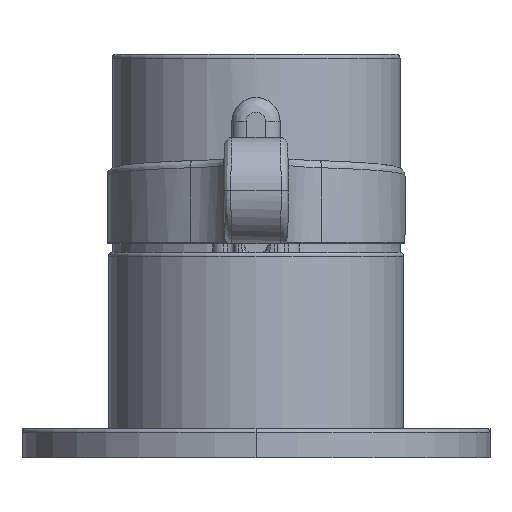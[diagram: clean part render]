
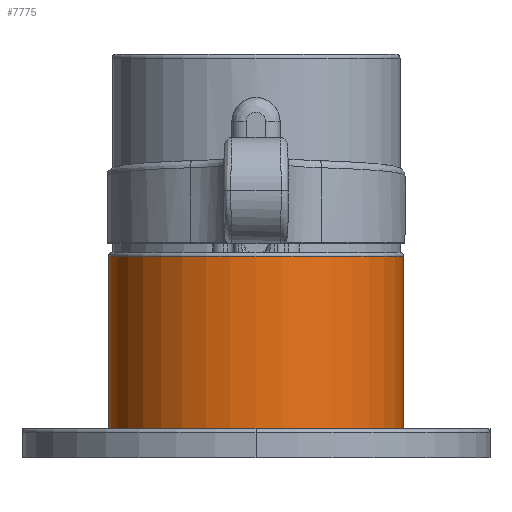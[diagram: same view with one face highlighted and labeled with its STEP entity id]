
A CAD part, front view. The second image highlights one B-rep face of the part: STEP entity #7775.
In plain terms, the highlighted cylindrical face has radius 20.5 mm (diameter 41 mm), a partial arc.
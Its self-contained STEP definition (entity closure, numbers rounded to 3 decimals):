
#1554=CARTESIAN_POINT('',(0.,0.,4.));
#1555=DIRECTION('',(0.,0.,-1.));
#1556=DIRECTION('',(1.,0.,0.));
#1557=AXIS2_PLACEMENT_3D('',#1554,#1555,#1556);
#1559=CARTESIAN_POINT('',(0.,0.,28.));
#1560=DIRECTION('',(0.,0.,1.));
#1561=DIRECTION('',(-1.,0.,0.));
#1562=AXIS2_PLACEMENT_3D('',#1559,#1560,#1561);
#1579=DIRECTION('',(0.,0.,1.));
#1580=VECTOR('',#1579,24.);
#1581=CARTESIAN_POINT('',(20.5,0.,4.));
#1582=LINE('',#1581,#1580);
#1588=DIRECTION('',(0.,0.,-1.));
#1589=VECTOR('',#1588,24.);
#1590=CARTESIAN_POINT('',(-20.5,0.,28.));
#1591=LINE('',#1590,#1589);
#1670=CARTESIAN_POINT('',(20.5,0.,28.));
#1671=CARTESIAN_POINT('',(-20.5,0.,28.));
#1672=VERTEX_POINT('',#1670);
#1673=VERTEX_POINT('',#1671);
#1730=CARTESIAN_POINT('',(-20.5,0.,4.));
#1731=CARTESIAN_POINT('',(20.5,0.,4.));
#1732=VERTEX_POINT('',#1730);
#1733=VERTEX_POINT('',#1731);
#7761=CARTESIAN_POINT('',(0.,0.,19.15));
#7762=DIRECTION('',(0.,0.,-1.));
#7763=DIRECTION('',(1.,0.,0.));
#7764=AXIS2_PLACEMENT_3D('',#7761,#7762,#7763);
#7765=CYLINDRICAL_SURFACE('',#7764,20.5);
#7767=ORIENTED_EDGE('',*,*,#7766,.T.);
#7769=ORIENTED_EDGE('',*,*,#7768,.F.);
#7770=ORIENTED_EDGE('',*,*,#7748,.T.);
#7772=ORIENTED_EDGE('',*,*,#7771,.F.);
#7773=EDGE_LOOP('',(#7767,#7769,#7770,#7772));
#7774=FACE_OUTER_BOUND('',#7773,.F.);
#1558=CIRCLE('',#1557,20.5);
#1563=CIRCLE('',#1562,20.5);
#7748=EDGE_CURVE('',#1673,#1672,#1563,.T.);
#7766=EDGE_CURVE('',#1733,#1732,#1558,.T.);
#7768=EDGE_CURVE('',#1673,#1732,#1591,.T.);
#7771=EDGE_CURVE('',#1733,#1672,#1582,.T.);
#7775=ADVANCED_FACE('',(#7774),#7765,.T.);
